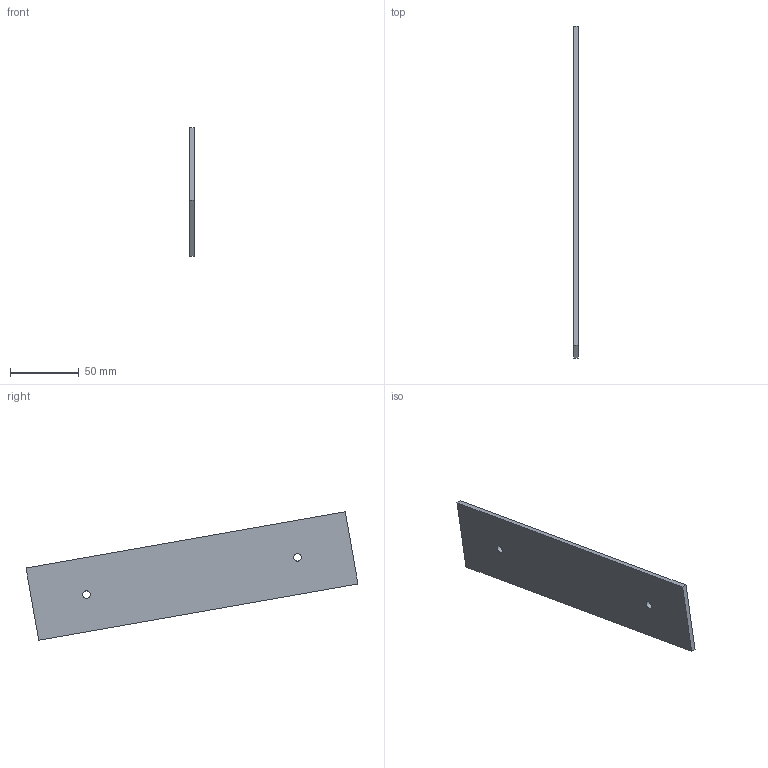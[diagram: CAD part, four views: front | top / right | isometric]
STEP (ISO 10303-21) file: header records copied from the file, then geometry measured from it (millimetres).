
FILE_DESCRIPTION(('golf model'),'2;1');
FILE_NAME('golf','',(''),(''),'golf_step_io','golf','');
FILE_SCHEMA(('AUTOMOTIVE_DESIGN { 1 0 10303 214 1 1 1 1 }'));
Length unit declared in the file: millimetre
Products named in the file (2): ASSEMBLY; counterweight.shoe_top_0
Assembly tree (1 placements, depth 2):
  ASSEMBLY
    counterweight.shoe_top_0
Bounding box: 3.5 x 241.71 x 93.67 mm (x, y, z)
Volume: 44025.7 mm3; surface area: 27305 mm2
Topology: 1 solids, 1 shells, 8 faces, 18 edges, 12 vertices
Faces by surface type: plane 6, cylinder 2
Full cylindrical faces by diameter (mm): 5.5 x2
Entity records: 258 total; most frequent: DIRECTION 40, CARTESIAN_POINT 38, ORIENTED_EDGE 32, EDGE_CURVE 16, AXIS2_PLACEMENT_3D 14, EDGE_LOOP 14, VERTEX_POINT 12, VECTOR 12
